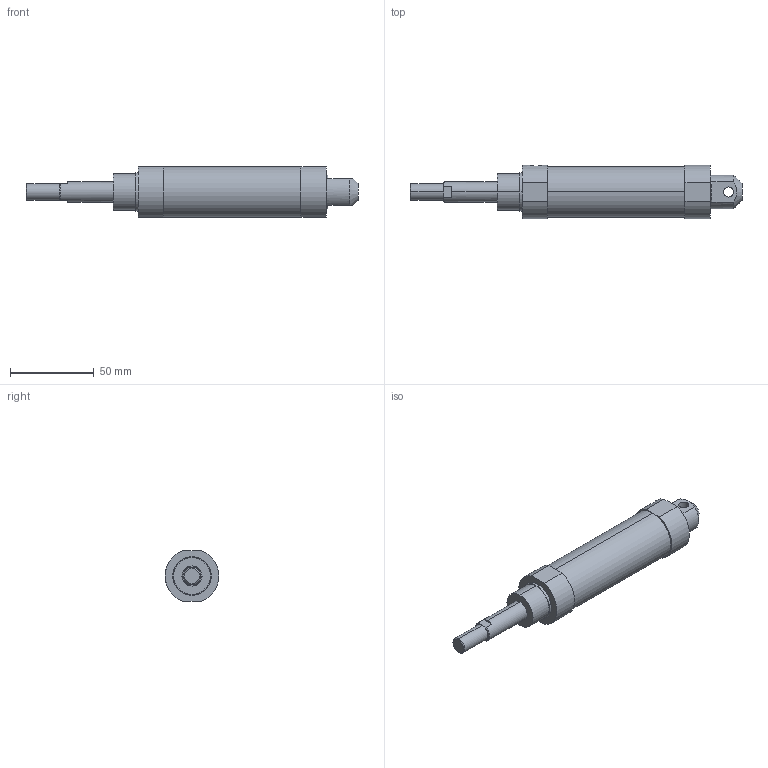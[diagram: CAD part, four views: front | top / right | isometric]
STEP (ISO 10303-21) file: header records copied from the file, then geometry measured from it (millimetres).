
FILE_DESCRIPTION (( 'STEP AP203' ), '1' );
FILE_NAME ('J#0-25-25-C.STEP', '2016-03-08T06:33:42', ( '' ), ( '' ), 'SwSTEP 2.0', 'SolidWorks 2014', '' );
FILE_SCHEMA (( 'CONFIG_CONTROL_DESIGN' ));
Length unit declared in the file: millimetre
Products named in the file (1): J#0-25-25-C
Bounding box: 198 x 32 x 30 mm (x, y, z)
Volume: 96071.3 mm3; surface area: 16959.2 mm2
Topology: 1 solids, 1 shells, 51 faces, 118 edges, 74 vertices
Faces by surface type: plane 25, cylinder 20, cone 6
Entity records: 1631 total; most frequent: CARTESIAN_POINT 362, DIRECTION 264, ORIENTED_EDGE 236, EDGE_CURVE 118, AXIS2_PLACEMENT_3D 104, VERTEX_POINT 74, EDGE_LOOP 58, LINE 56
